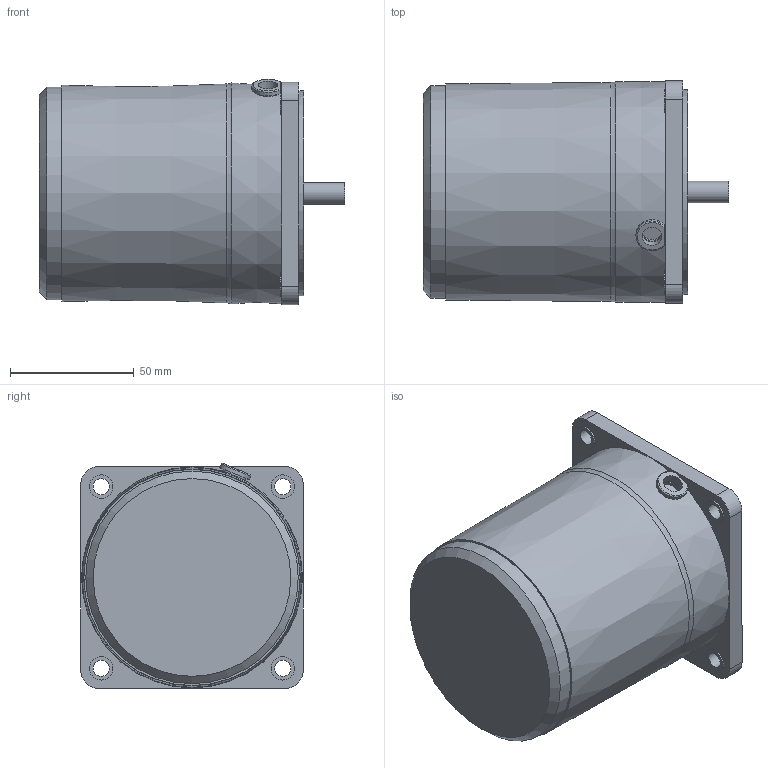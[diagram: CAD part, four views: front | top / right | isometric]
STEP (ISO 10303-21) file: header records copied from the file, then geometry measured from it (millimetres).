
FILE_DESCRIPTION((''),'2;1');
FILE_NAME('D:\STP파일\40W MOTOR\S9I40G.stp','2013-05-20T16:47:24',('leebh'),(''),'Autodesk Inventor 2011','Autodesk Inventor 2011','');
FILE_SCHEMA(('AUTOMOTIVE_DESIGN { 1 0 10303 214 1 1 1 1 }'));
Length unit declared in the file: millimetre
Products named in the file (1): 부품3
Bounding box: 123.5 x 90 x 91.17 mm (x, y, z)
Volume: 646753.5 mm3; surface area: 48982.4 mm2
Topology: 1 solids, 2 shells, 78 faces, 183 edges, 121 vertices
Faces by surface type: plane 43, cylinder 30, cone 3, torus 2
Full cylindrical faces by diameter (mm): 6.5 x4, 8 x1, 8.7 x1, 9.5 x4, 10 x1, 40 x1, 83 x1, 86 x1
Entity records: 2212 total; most frequent: CARTESIAN_POINT 413, DIRECTION 382, ORIENTED_EDGE 320, EDGE_CURVE 160, AXIS2_PLACEMENT_3D 148, EDGE_LOOP 119, VERTEX_POINT 117, VECTOR 86
